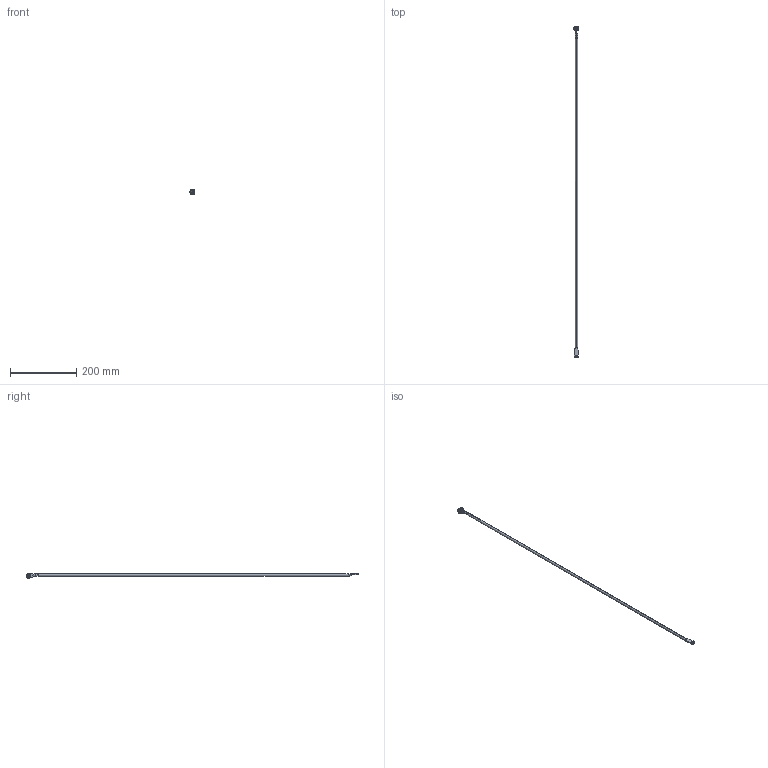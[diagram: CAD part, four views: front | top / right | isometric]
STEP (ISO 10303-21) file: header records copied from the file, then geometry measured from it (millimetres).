
FILE_DESCRIPTION (( 'STEP AP214' ), '1' );
FILE_NAME ('P38L.STEP', '2016-08-18T06:17:45', ( 'RST-Dolba' ), ( '' ), 'SwSTEP 2.0', 'SolidWorks 2015', '' );
FILE_SCHEMA (( 'AUTOMOTIVE_DESIGN' ));
Length unit declared in the file: millimetre
Products named in the file (5): DIN 125_M4; 1C.ROLKA.02.05.00_A; 1C.905.001_A; 1C.P38.X.L.01_A.1000; P38L
Assembly tree (5 placements, depth 2):
  P38L
    1C.P38.X.L.01_A.1000
    1C.905.001_A  x2
    1C.ROLKA.02.05.00_A
    DIN 125_M4
Bounding box: 16.6 x 1006 x 15 mm (x, y, z)
Volume: 51999.5 mm3; surface area: 27390.2 mm2
Topology: 5 solids, 5 shells, 68 faces, 158 edges, 96 vertices
Faces by surface type: cylinder 35, plane 17, torus 10, bspline 4, cone 2
Entity records: 2197 total; most frequent: CARTESIAN_POINT 598, DIRECTION 331, ORIENTED_EDGE 272, AXIS2_PLACEMENT_3D 143, EDGE_CURVE 136, VERTEX_POINT 86, CIRCLE 79, EDGE_LOOP 70
